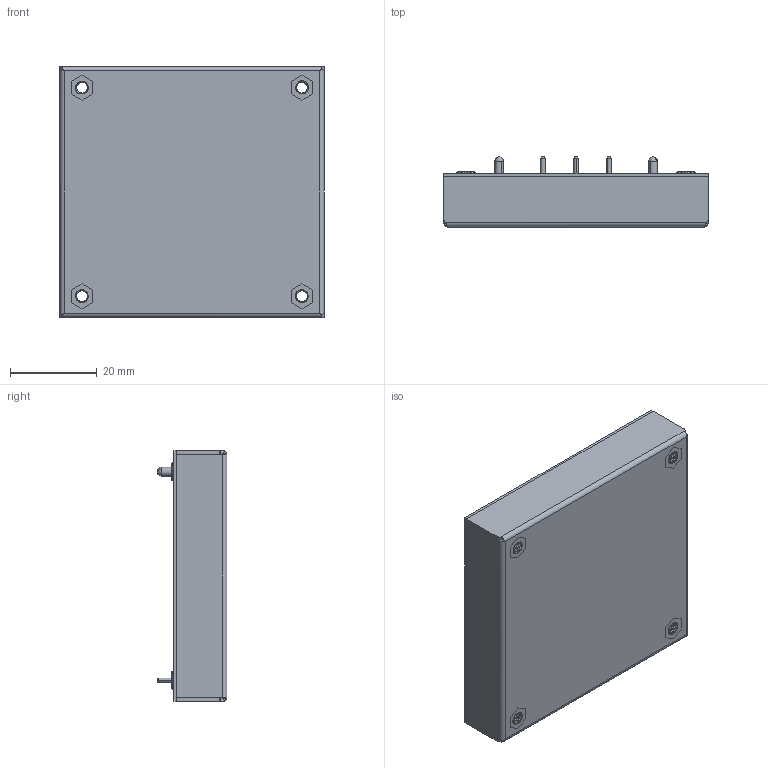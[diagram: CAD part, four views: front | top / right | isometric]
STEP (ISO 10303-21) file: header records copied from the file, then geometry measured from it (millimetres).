
FILE_DESCRIPTION (( 'STEP AP203' ), '1' );
FILE_NAME ('CHE100.STEP', '2017-06-02T01:49:09', ( 'cincon' ), ( '' ), 'SwSTEP 2.0', 'SolidWorks 2017', '' );
FILE_SCHEMA (( 'CONFIG_CONTROL_DESIGN' ));
Length unit declared in the file: millimetre
Products named in the file (8): CHE100W BASE(FR4); 直徑1.02PIN; 圓PIN直徑2.03; CHE100W內部灌膠; CHE100; CHE100W CASE; CHE100W六角銅柱(M3)(M-C502-00-J)G513942016; CHE100W CASE組合示意圖
Assembly tree (18 placements, depth 3):
  CHE100
    CHE100W CASE組合示意圖
      CHE100W CASE
      CHE100W六角銅柱(M3)(M-C502-00-J)G513942016  x4
    CHE100W BASE(FR4)
    直徑1.02PIN  x7
    圓PIN直徑2.03  x2
    CHE100W內部灌膠  x2
Bounding box: 61 x 16.15 x 57.9 mm (x, y, z)
Volume: 10391.8 mm3; surface area: 22821 mm2
Topology: 17 solids, 17 shells, 935 faces, 2496 edges, 1652 vertices
Faces by surface type: plane 392, cylinder 285, bspline 224, cone 30, sphere 4
Entity records: 35676 total; most frequent: CARTESIAN_POINT 19350, ORIENTED_EDGE 3608, DIRECTION 2303, EDGE_CURVE 1804, VERTEX_POINT 1199, VECTOR 1137, LINE 1137, EDGE_LOOP 763
